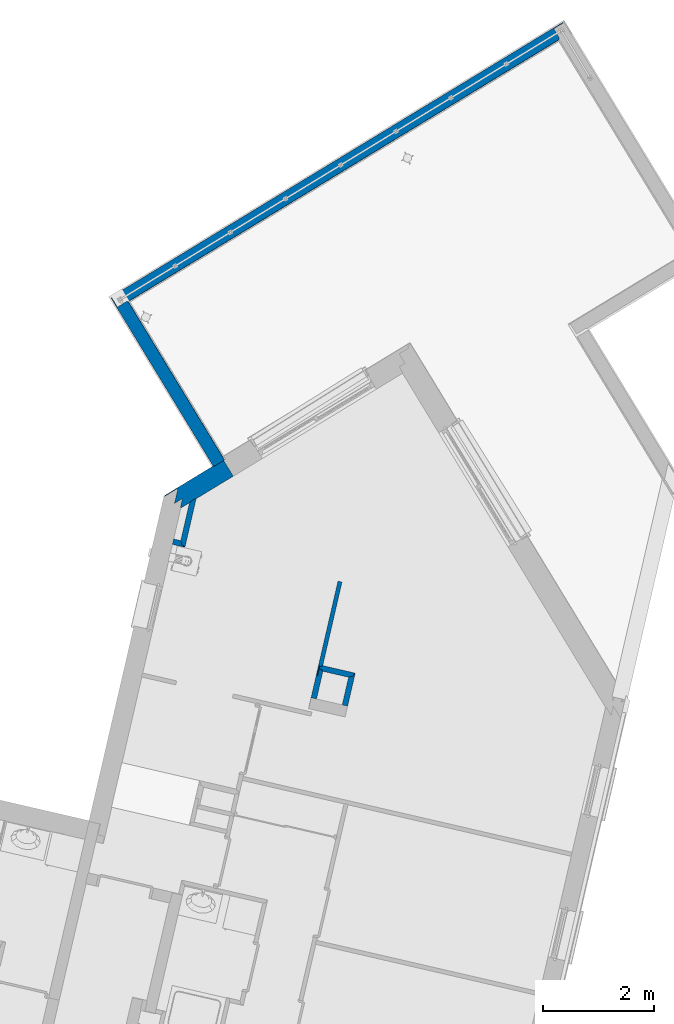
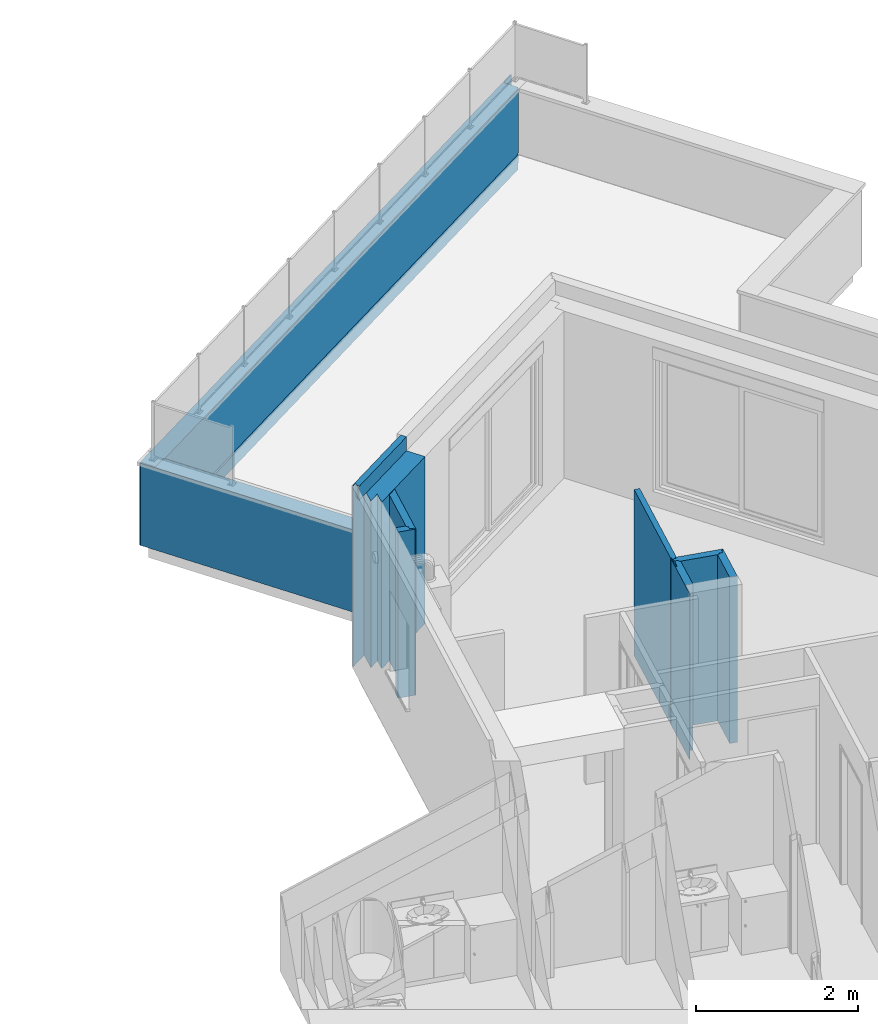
# One storey, part 50 of 91: 9 walls.
"""IFC2X3 building model written with IfcOpenShell, lengths in metres."""

import ifcopenshell
import ifcopenshell.guid

model = None  # the IFC model being written
_history = None  # IfcOwnerHistory: only IFC2X3 demands one
_inside = {}  # id of a spatial element -> (the spatial element, [elements in it])
_under = {}  # id of a project, library or spatial element -> (it, [spatial elements below it])
_declared = {}  # id of a project -> (the project, [libraries it declares])
_typed = {}  # id of a type object -> (the type object, [elements of that type])
_made_of = {}  # id of a material, layer set ... -> (it, [elements and type objects made of it])


def new_model(schema):
    """Start an empty IFC model of exactly this schema.

    Asked for "IFC4X3", IfcOpenShell would pick the latest addendum, in which some entities
    have other attributes; the version numbers below select the first issue.
    IFC2X3 requires an IfcOwnerHistory on every rooted entity: one is made here for all.
    """
    global model, _history
    if schema == "IFC4X3":
        model = ifcopenshell.file(schema_version=(4, 3, 0, 0))
    else:
        model = ifcopenshell.file(schema=schema)
    _inside.clear()
    _under.clear()
    _declared.clear()
    _typed.clear()
    _made_of.clear()
    _history = None
    if model.schema == "IFC2X3":
        org = make("IfcOrganization", Name="unknown")
        user = make(
            "IfcPersonAndOrganization",
            ThePerson=make("IfcPerson", FamilyName="unknown"),
            TheOrganization=org,
        )
        app = make(
            "IfcApplication",
            ApplicationDeveloper=org,
            Version="unknown",
            ApplicationFullName="unknown",
            ApplicationIdentifier="unknown",
        )
        _history = make(
            "IfcOwnerHistory",
            OwningUser=user,
            OwningApplication=app,
            ChangeAction="ADDED",
            CreationDate=0,
        )
    return model


def make(cls, **values):
    """One entity of the class cls with the attributes given. An attribute that is None is left unset."""
    return model.create_entity(
        cls, **{name: value for name, value in values.items() if value is not None}
    )


def entity(cls, *values):
    """Any entity or typed value of the class cls, its attributes in the order of the schema. None: left unset."""
    e = model.create_entity(cls)
    for i, value in enumerate(values):
        if value is not None:
            e[i] = value
    return e


def rooted(cls, **values):
    """An entity with a GlobalId (a new one), such as an element, a storey or a relation."""
    return make(cls, GlobalId=ifcopenshell.guid.new(), OwnerHistory=_history, **values)


def si_unit(unit_type, name, prefix=None):
    """IfcSIUnit, for example si_unit("LENGTHUNIT", "METRE", prefix="MILLI")."""
    return make("IfcSIUnit", UnitType=unit_type, Prefix=prefix, Name=name)


def converted_unit(unit_type, name, factor, base, dimensions=None, offset=None):
    """IfcConversionBasedUnit, such as the inch: factor (a typed value) times the base unit."""
    return make(
        "IfcConversionBasedUnit"
        if offset is None
        else "IfcConversionBasedUnitWithOffset",
        ConversionOffset=offset,
        Dimensions=None
        if dimensions is None
        else entity("IfcDimensionalExponents", *dimensions),
        UnitType=unit_type,
        Name=name,
        ConversionFactor=make(
            "IfcMeasureWithUnit", ValueComponent=factor, UnitComponent=base
        ),
    )


def derived_unit(unit_type, elements):
    """IfcDerivedUnit: a product of units, each with its exponent."""
    return make(
        "IfcDerivedUnit",
        Elements=[
            make("IfcDerivedUnitElement", Unit=unit, Exponent=power)
            for unit, power in elements
        ],
        UnitType=unit_type,
    )


def money_unit(currency):
    """IfcMonetaryUnit."""
    return make("IfcMonetaryUnit", Currency=currency)


def assignment(units):
    """IfcUnitAssignment: the units of a project."""
    return None if units is None else make("IfcUnitAssignment", Units=units)


def point(xyz):
    """IfcCartesianPoint."""
    return None if xyz is None else make("IfcCartesianPoint", Coordinates=xyz)


def direction(xyz):
    """IfcDirection."""
    return None if xyz is None else make("IfcDirection", DirectionRatios=xyz)


def frame(location, z_axis=None, x_axis=None):
    """IfcAxis2Placement3D, a coordinate frame: its origin and axes. An axis left out is left unset."""
    return make(
        "IfcAxis2Placement3D",
        Location=point(location),
        Axis=direction(z_axis),
        RefDirection=direction(x_axis),
    )


def origin_with_axes():
    """The frame at (0, 0, 0) with the z axis (0, 0, 1) and the x axis (1, 0, 0) written out."""
    return frame((0.0, 0.0, 0.0), z_axis=(0.0, 0.0, 1.0), x_axis=(1.0, 0.0, 0.0))


def place(relative_to, where):
    """IfcLocalPlacement: puts the frame where relative to a parent placement (None: the world)."""
    return make(
        "IfcLocalPlacement", PlacementRelTo=relative_to, RelativePlacement=where
    )


def context(
    kind, dimensions, precision=None, world=None, true_north=None, identifier=None
):
    """IfcGeometricRepresentationContext, for example the 3D "Model" context."""
    return make(
        "IfcGeometricRepresentationContext",
        ContextIdentifier=identifier,
        ContextType=kind,
        CoordinateSpaceDimension=dimensions,
        Precision=precision,
        WorldCoordinateSystem=world,
        TrueNorth=true_north,
    )


def subcontext(parent, identifier, kind, view, scale=None):
    """IfcGeometricRepresentationSubContext, for example "Body" below "Model"."""
    return make(
        "IfcGeometricRepresentationSubContext",
        ContextIdentifier=identifier,
        ContextType=kind,
        ParentContext=parent,
        TargetScale=scale,
        TargetView=view,
    )


def project(units=None, contexts=None):
    """IfcProject with its units and contexts."""
    return rooted(
        "IfcProject",
        Name="project",
        RepresentationContexts=contexts,
        UnitsInContext=assignment(units),
    )


def spatial(cls, under=None, at=None, **own):
    """A site, building, storey or space (cls), placed at a placement, below another one or the project."""
    s = rooted(cls, ObjectPlacement=at, **own)
    if under is not None:
        _under.setdefault(under.id(), (under, []))[1].append(s)
    return s


def faces_of(points, faces, orient=None, outer=None):
    """IfcFace entities. A face is a list of loops; a loop is a list of indices into points, from 0.

    orient and outer hold one flag for each loop. By default every Orientation is true, the
    first loop of a face is its IfcFaceOuterBound and the others are IfcFaceBound.
    """
    made = []
    for i, loops in enumerate(faces):
        bounds = []
        for j, loop in enumerate(loops):
            is_outer = j == 0 if outer is None else outer[i][j]
            bounds.append(
                make(
                    "IfcFaceOuterBound" if is_outer else "IfcFaceBound",
                    Bound=make("IfcPolyLoop", Polygon=[points[k] for k in loop]),
                    Orientation=True if orient is None else orient[i][j],
                )
            )
        made.append(make("IfcFace", Bounds=bounds))
    return made


def faceted_brep(points, faces, orient=None, outer=None, voids=None):
    """IfcFacetedBrep: a solid bounded by flat faces; with voids (closed shells), ...WithVoids."""
    shared = [point(p) for p in points]
    hull = make("IfcClosedShell", CfsFaces=faces_of(shared, faces, orient, outer))
    if voids is None:
        return make("IfcFacetedBrep", Outer=hull)
    return make(
        "IfcFacetedBrepWithVoids",
        Outer=hull,
        Voids=[
            make(cls, CfsFaces=faces_of(shared, fs, o, b)) for cls, fs, o, b in voids
        ],
    )


def shape(context_of_items, identifier, shape_type, items):
    """IfcShapeRepresentation: the items that make up one representation, for example the "Body"."""
    return make(
        "IfcShapeRepresentation",
        ContextOfItems=context_of_items,
        RepresentationIdentifier=identifier,
        RepresentationType=shape_type,
        Items=items,
    )


def material(Name=None, Category=None):
    """IfcMaterial."""
    return make("IfcMaterial", Name=Name, Category=Category)


def material_list(materials):
    """IfcMaterialList."""
    return make("IfcMaterialList", Materials=materials)


def made_of(thing, what):
    """Note that an element or type object is made of a material, layer set ...; save() writes the relation."""
    if what is not None:
        _made_of.setdefault(what.id(), (what, []))[1].append(thing)
    return thing


def type_object(cls, material=None, **own):
    """A type object (cls), such as IfcWallType, which elements share."""
    return made_of(rooted(cls, **own), material)


def element(
    cls,
    number,
    at=None,
    inside=None,
    cuts=None,
    type_object=None,
    material=None,
    context=None,
    identifier="Body",
    shape_type=None,
    held_by="IfcProductDefinitionShape",
    body=None,
    shapes=None,
    **own,
):
    """One element of the class cls, such as IfcWall. Its Tag is "e" and its number.

    at: its placement. inside: the storey or other place that contains it. cuts: it is an
    opening in that element (IfcRelVoidsElement). A single representation is given by context,
    identifier, shape_type and body (its items); several are given by shapes. held_by: the class
    of the entity that holds the representations. save() writes the other relations.
    """
    e = rooted(cls, Tag="e%d" % number, ObjectPlacement=at, **own)
    if body is not None:
        shapes = [shape(context, identifier, shape_type, body)]
    if shapes is not None:
        e.Representation = make(held_by, Representations=shapes)
    if inside is not None:
        _inside.setdefault(inside.id(), (inside, []))[1].append(e)
    if cuts is not None:
        rooted(
            "IfcRelVoidsElement", RelatingBuildingElement=cuts, RelatedOpeningElement=e
        )
    if type_object is not None:
        _typed.setdefault(type_object.id(), (type_object, []))[1].append(e)
    return made_of(e, material)


def aggregate(whole, parts):
    """IfcRelAggregates: a whole, such as a stair, and the parts it consists of."""
    return rooted("IfcRelAggregates", RelatingObject=whole, RelatedObjects=parts)


def save(model, path):
    """Write the relations noted so far, then the file.

    IfcRelAggregates (storeys below a building ...), IfcRelContainedInSpatialStructure (elements
    in a storey), IfcRelDefinesByType, IfcRelAssociatesMaterial and IfcRelDeclares: one each for
    every whole, place, type object, material and project.
    """
    for whole, parts in _under.values():
        aggregate(whole, parts)
    for where, things in _inside.values():
        rooted(
            "IfcRelContainedInSpatialStructure",
            RelatedElements=things,
            RelatingStructure=where,
        )
    for kind, things in _typed.values():
        rooted("IfcRelDefinesByType", RelatedObjects=things, RelatingType=kind)
    for what, things in _made_of.values():
        rooted("IfcRelAssociatesMaterial", RelatedObjects=things, RelatingMaterial=what)
    for by, libraries in _declared.values():
        rooted("IfcRelDeclares", RelatingContext=by, RelatedDefinitions=libraries)
    model.write(path)


model = new_model("IFC2X3")

# Units and contexts
model_context = context("Model", 3, precision=1e-05, world=origin_with_axes(), true_north=direction((0.0, 1.0)))
body_context = subcontext(model_context, "Body", "Model", "MODEL_VIEW")
ifc_project = project(units=[si_unit("LENGTHUNIT", "METRE"), si_unit("AREAUNIT", "SQUARE_METRE"), si_unit("VOLUMEUNIT", "CUBIC_METRE"), converted_unit("PLANEANGLEUNIT", "DEGREE", entity("IfcPlaneAngleMeasure", 0.0174532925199), si_unit("PLANEANGLEUNIT", "RADIAN"), dimensions=[0, 0, 0, 0, 0, 0, 0]), si_unit("SOLIDANGLEUNIT", "STERADIAN"), money_unit("EUR"), converted_unit("TIMEUNIT", "Year", entity("IfcTimeMeasure", 31556926.0), si_unit("TIMEUNIT", "SECOND"), dimensions=[0, 0, 1, 0, 0, 0, 0]), si_unit("MASSUNIT", "GRAM", prefix="KILO"), si_unit("THERMODYNAMICTEMPERATUREUNIT", "DEGREE_CELSIUS"), si_unit("LUMINOUSINTENSITYUNIT", "LUMEN"), si_unit("ENERGYUNIT", "JOULE", prefix="MEGA"), derived_unit("THERMALCONDUCTANCEUNIT", [(si_unit("POWERUNIT", "WATT"), 1), (si_unit("LENGTHUNIT", "METRE"), -1), (si_unit("THERMODYNAMICTEMPERATUREUNIT", "KELVIN"), -1)]), derived_unit("SPECIFICHEATCAPACITYUNIT", [(si_unit("ENERGYUNIT", "JOULE"), 1), (si_unit("MASSUNIT", "GRAM", prefix="KILO"), -1), (si_unit("THERMODYNAMICTEMPERATUREUNIT", "KELVIN"), -1)]), derived_unit("MASSDENSITYUNIT", [(si_unit("MASSUNIT", "GRAM", prefix="KILO"), 1), (si_unit("VOLUMEUNIT", "CUBIC_METRE"), -1)])], contexts=[model_context])

# Site, building, storey
site_placement = place(None, origin_with_axes())
site = spatial("IfcSite", under=ifc_project, at=site_placement, Name="Site", CompositionType="ELEMENT")
building_placement = place(site_placement, origin_with_axes())
building = spatial("IfcBuilding", under=site, at=building_placement, Name="Bâtiment", CompositionType="ELEMENT")
storey_placement = place(building_placement, frame((0.0, 0.0, 5.44), z_axis=(0.0, 0.0, 1.0), x_axis=(1.0, 0.0, 0.0)))
storey = spatial("IfcBuildingStorey", under=building, at=storey_placement, Name="R+2", CompositionType="ELEMENT", Elevation=5.44)

# Walls
ifc_material_1 = material(Name="Finition int - Plaque de plâtre")
ifc_material_2 = material(Name="Isolation - Polystyrène extrudé")
ifc_material_3 = material(Name="Bloc ELITHERM")
ifc_material_4 = material(Name="Isolation - Polystyrène expansé")
ifc_material_5 = material(Name="Mortier")
ifc_material_6 = material(Name="Béton cellulaire")
ifc_material_7 = material(Name="Finition ext - Crépis")
ifc_material_list_1 = material_list([ifc_material_1, ifc_material_2, ifc_material_3, ifc_material_4, ifc_material_5, ifc_material_6, ifc_material_7])
wall_type_1 = type_object("IfcWallType", Name="Mur ALKERN + planelle 21 345 x 2720", PredefinedType="USERDEFINED")
wall_1_placement = place(storey_placement, frame((-5.78251282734, 18.2904396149, 0.0), z_axis=(0.0, 0.0, 1.0), x_axis=(-0.854539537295, -0.519386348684, 0.0)))
element("IfcWall", 1, at=wall_1_placement, inside=storey, type_object=wall_type_1, material=ifc_material_list_1, Name="Mue bloc ALKERN isolé", ObjectType="SOLIDWALL", context=body_context, shape_type="Brep", body=[
    faceted_brep([(0.790396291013, 0.335000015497, 0.0), (0.790396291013, 0.335000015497, 2.5), (0.808556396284, 0.335000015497, 2.5), (0.875609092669, 0.335000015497, 2.5), (0.89376919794, 0.335000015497, 2.5), (0.89376919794, 0.335000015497, 0.0), (1.09464507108, 0.335000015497, 0.0), (1.09464507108, 0.335000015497, 2.51), (0.0, 0.335000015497, 2.51), (0.0, 0.335000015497, 0.0), (0.800150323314, 0.34499998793, 2.5), (0.800150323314, 0.34499998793, 0.0), (0.818310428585, 0.34499998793, 2.5), (0.88536312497, 0.34499998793, 2.5), (0.903523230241, 0.34499998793, 2.5), (0.903523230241, 0.34499998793, 0.0), (1.10439910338, 0.34499998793, 0.0), (1.10439910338, 0.34499998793, 2.51), (0.0, 0.34499998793, 2.51), (0.0, 0.34499998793, 0.0)], [[[0, 1, 2, 3, 4, 5, 6, 7, 8, 9]], [[10, 1, 0, 11]], [[12, 2, 1, 10]], [[3, 2, 12, 13]], [[14, 4, 3, 13]], [[15, 5, 4, 14]], [[6, 5, 15, 16]], [[16, 17, 7, 6]], [[8, 7, 17, 18]], [[19, 9, 8, 18]], [[19, 11, 0, 9]], [[12, 10, 11, 19, 18, 17, 16, 15, 14, 13]]]),
    faceted_brep([(0.0, 0.215000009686, 0.0), (0.991565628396, 0.215000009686, 0.0), (0.991565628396, 0.215000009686, 2.51), (0.0, 0.215000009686, 2.51), (0.0, 0.335000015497, 0.0), (1.10861434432, 0.335000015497, 0.0), (1.10861434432, 0.335000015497, 2.51), (0.0, 0.335000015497, 2.51)], [[[0, 1, 2, 3]], [[4, 5, 1, 0]], [[5, 6, 2, 1]], [[3, 2, 6, 7]], [[4, 0, 3, 7]], [[7, 6, 5, 4]]]),
    faceted_brep([(0.964116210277, 0.015, 0.0), (0.964116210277, 0.015, 2.50999999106), (0.0, 0.015, 2.50999999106), (0.0, 0.015, 0.0), (1.0304437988, 0.0829999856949, 2.50999999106), (1.15919738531, 0.214999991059, 0.0), (1.15919738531, 0.214999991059, 2.50999999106), (0.0, 0.0829999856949, 2.50999999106), (0.0, 0.214999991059, 0.0), (0.0, 0.214999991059, 2.50999999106)], [[[0, 1, 2, 3]], [[4, 1, 0, 5, 6]], [[1, 4, 7, 2]], [[8, 3, 2, 7, 9]], [[5, 0, 3, 8]], [[6, 5, 8, 9]], [[4, 6, 9, 7]]]),
    faceted_brep([(0.0, 0.0630000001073, 2.51999999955), (1.19533059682, 0.0630000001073, 2.51999999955), (1.19533059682, 0.0630000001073, 2.72), (0.0, 0.0630000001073, 2.72), (0.0, 0.083000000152, 2.51999999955), (1.21483871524, 0.083000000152, 2.51999999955), (1.21483871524, 0.083000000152, 2.72), (0.0, 0.083000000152, 2.72)], [[[0, 1, 2, 3]], [[4, 5, 1, 0]], [[5, 6, 2, 1]], [[3, 2, 6, 7]], [[7, 4, 0, 3]], [[7, 6, 5, 4]]]),
    faceted_brep([(1.14851111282, 0.015, 2.51), (1.14851111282, 0.015, 2.52), (0.0, 0.015, 2.52), (0.0, 0.015, 2.51), (1.2148387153, 0.083, 2.52), (1.2148387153, 0.083, 2.51), (0.0, 0.083, 2.52), (0.0, 0.083, 2.51)], [[[0, 1, 2, 3]], [[4, 1, 0, 5]], [[1, 4, 6, 2]], [[3, 2, 6, 7]], [[5, 0, 3, 7]], [[4, 5, 7, 6]]]),
    faceted_brep([(1.17644973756, 0.015, 2.51999999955), (1.17644973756, 0.015, 2.72), (0.0, 0.015, 2.72), (0.0, 0.015, 2.51999999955), (1.22326922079, 0.0629999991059, 2.72), (1.22326922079, 0.0629999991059, 2.51999999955), (0.0, 0.0629999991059, 2.72), (0.0, 0.0629999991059, 2.51999999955)], [[[0, 1, 2, 3]], [[4, 1, 0, 5]], [[1, 4, 6, 2]], [[2, 6, 7, 3]], [[5, 0, 3, 7]], [[4, 5, 7, 6]]]),
    faceted_brep([(1.22887136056, 0.0, 2.50999999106), (1.22887136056, 0.0, 2.51999999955), (1.22887136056, 0.0, 2.72), (0.0, 0.0, 2.72), (0.0, 0.0, 1.2550000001), (0.239816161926, 0.0, 1.2550000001), (0.239816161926, 0.0, 1.25299999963), (0.239816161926, 0.0, 1.21302453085), (0.239816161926, 0.0, 1.20874689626), (0.239816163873, 0.0, 1.205), (0.199813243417, 0.0, 1.205), (0.199813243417, 0.0, 0.267041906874), (0.199813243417, 0.0, 0.228976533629), (0.199813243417, 0.0, 0.22), (0.199813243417, 0.0, 0.192882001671), (0.199813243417, 0.0, 0.1), (0.199813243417, 0.0, 0.0), (1.22887136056, 0.0, 0.0), (1.24350243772, 0.0149999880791, 2.50999999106), (1.24350243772, 0.0149999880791, 2.51999999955), (1.24350243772, 0.0149999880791, 2.72), (0.0, 0.0149999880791, 2.72), (0.0, 0.00678359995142, 1.25299999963), (0.0, 0.00678359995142, 1.2550000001), (0.0, 0.0149999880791, 1.24), (0.0, 0.00678359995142, 1.24), (0.239816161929, 0.00678359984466, 1.2550000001), (0.239816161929, 0.00678359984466, 1.25299999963), (0.239816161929, 0.00678359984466, 1.21302453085), (0.239816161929, 0.00678359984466, 1.20874689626), (0.239816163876, 0.00678359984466, 1.205), (0.19981324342, 0.00678359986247, 1.205), (0.19981324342, 0.00678359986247, 1.20874689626), (0.19981324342, 0.00678359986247, 1.21302453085), (0.19981324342, 0.00678359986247, 1.24), (0.199813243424, 0.0149999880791, 1.24), (0.199813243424, 0.0149999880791, 0.267041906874), (0.199813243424, 0.0149999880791, 0.228976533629), (0.199813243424, 0.0149999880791, 0.22), (0.199813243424, 0.0149999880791, 0.192882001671), (0.199813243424, 0.0149999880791, 0.1), (0.199813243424, 0.0149999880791, 0.0), (1.24350243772, 0.0149999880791, 0.0), (0.238008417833, 0.00678359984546, 1.25299999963), (0.238008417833, 0.00678359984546, 1.21302453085), (0.232236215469, 0.00678359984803, 1.21302453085), (0.238008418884, 0.00678359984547, 1.20874689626), (0.234760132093, 0.00678359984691, 1.20874689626), (0.231230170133, 0.00678359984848, 1.21136286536)], [[[0, 1, 2, 3, 4, 5, 6, 7, 8, 9, 10, 11, 12, 13, 14, 15, 16, 17]], [[18, 19, 1, 0]], [[19, 20, 2, 1]], [[3, 2, 20, 21]], [[22, 23, 4, 3, 21, 24, 25]], [[5, 4, 23, 26]], [[26, 27, 6, 5]], [[7, 6, 27, 28]], [[8, 7, 28, 29]], [[9, 8, 29, 30]], [[30, 31, 10, 9]], [[32, 33, 34, 35, 36, 11, 10, 31]], [[12, 11, 36, 37]], [[13, 12, 37, 38]], [[14, 13, 38, 39]], [[15, 14, 39, 40]], [[16, 15, 40, 41]], [[41, 42, 17, 16]], [[42, 18, 0, 17]], [[21, 20, 19, 18, 42, 41, 40, 39, 38, 37, 36, 35, 24]], [[26, 23, 22, 43, 27]], [[35, 34, 25, 24]], [[44, 43, 22, 25, 34, 33, 45]], [[28, 27, 43, 44]], [[29, 28, 44, 46]], [[29, 46, 47, 30]], [[30, 47, 32, 31]], [[48, 45, 33, 32, 47]], [[46, 44, 45]], [[45, 48, 47, 46]]]),
])
ifc_material_8 = material(Name="Isolation - Laine de roche")
ifc_material_list_2 = material_list([ifc_material_1, ifc_material_8, ifc_material_1])
wall_type_2 = type_object("IfcWallType", Name="3 - Cloison 72mm Placostil 74", PredefinedType="USERDEFINED")
wall_2_placement = place(storey_placement, frame((-4.06768031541, 14.6077323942, 0.0), z_axis=(0.0, 0.0, 1.0), x_axis=(0.224876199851, 0.974387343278, 0.0)))
element("IfcWall", 2, at=wall_2_placement, inside=storey, type_object=wall_type_2, material=ifc_material_list_2, Name="Cloison Placostil 72/48", ObjectType="PARTITIONING", context=body_context, shape_type="Brep", body=[
    faceted_brep([(1.54146682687, 0.0, 2.5), (0.0, 0.0, 2.5), (0.0, -0.013, 2.5), (1.54146682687, -0.013, 2.5), (1.54146682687, 0.0, 0.0), (0.0, 0.0, 0.0), (0.0, -0.013, 0.0), (1.54146682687, -0.013, 0.0)], [[[0, 1, 2, 3]], [[4, 5, 1, 0]], [[5, 6, 2, 1]], [[3, 2, 6, 7]], [[7, 4, 0, 3]], [[7, 6, 5, 4]]]),
    faceted_brep([(-0.2, -0.013, 2.5), (-0.2, -0.0260000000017, 2.5), (-0.0259999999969, -0.0260000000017, 2.5), (-0.0259999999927, -0.061, 2.5), (1.54146682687, -0.061, 2.5), (1.54146682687, -0.013, 2.5), (-0.2, -0.013, 0.0), (-0.2, -0.0260000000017, 0.0), (-0.0259999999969, -0.0260000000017, 0.0), (-0.0259999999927, -0.061, 0.0), (1.54146682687, -0.061, 0.0), (1.54146682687, -0.013, 0.0)], [[[0, 1, 2, 3, 4, 5]], [[6, 7, 1, 0]], [[8, 2, 1, 7]], [[8, 9, 3, 2]], [[4, 3, 9, 10]], [[10, 11, 5, 4]], [[11, 6, 0, 5]], [[9, 8, 7, 6, 11, 10]]]),
    faceted_brep([(1.54146682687, -0.061, 2.5), (0.0, -0.061, 2.5), (0.0, -0.0740000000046, 2.5), (1.54146682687, -0.074, 2.5), (1.54146682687, -0.061, 0.0), (0.0, -0.061, 0.0), (0.0, -0.0740000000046, 0.0), (1.54146682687, -0.074, 0.0)], [[[0, 1, 2, 3]], [[4, 5, 1, 0]], [[5, 6, 2, 1]], [[3, 2, 6, 7]], [[7, 4, 0, 3]], [[7, 6, 5, 4]]]),
])
ifc_material_list_3 = material_list([ifc_material_1, ifc_material_1, ifc_material_8, ifc_material_1, ifc_material_1])
wall_type_3 = type_object("IfcWallType", Name="3 - Cloison Gaine Technique 98mm 100", PredefinedType="USERDEFINED")
wall_3_placement = place(storey_placement, frame((-3.41070729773, 14.4561113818, 0.0), z_axis=(0.0, 0.0, 1.0), x_axis=(-0.974387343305, 0.224876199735, 0.0)))
element("IfcWall", 3, at=wall_3_placement, inside=storey, type_object=wall_type_3, material=ifc_material_list_3, Name="Cloison 98 isolée", ObjectType="PARTITIONING", context=body_context, shape_type="Brep", body=[
    faceted_brep([(0.0870000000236, 0.1, 0.0), (0.587242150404, 0.1, 0.0), (0.587242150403, 0.087, 0.0), (0.0870000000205, 0.087, 0.0), (0.0870000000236, 0.1, 2.5), (0.587242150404, 0.1, 2.5), (0.587242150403, 0.087, 2.5), (0.0870000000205, 0.087, 2.5)], [[[0, 1, 2, 3]], [[4, 5, 1, 0]], [[6, 2, 1, 5]], [[3, 2, 6, 7]], [[7, 4, 0, 3]], [[7, 6, 5, 4]]]),
    faceted_brep([(0.0740000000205, 0.087, 0.0), (0.600242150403, 0.087, 0.0), (0.600242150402, 0.074, 0.0), (0.0740000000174, 0.074, 0.0), (0.0740000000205, 0.087, 2.5), (0.600242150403, 0.087, 2.5), (0.600242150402, 0.074, 2.5), (0.0740000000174, 0.074, 2.5)], [[[0, 1, 2, 3]], [[4, 5, 1, 0]], [[6, 2, 1, 5]], [[3, 2, 6, 7]], [[7, 4, 0, 3]], [[7, 6, 5, 4]]]),
    faceted_brep([(0.0260000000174, 0.074, 0.0), (0.648242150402, 0.074, 0.0), (0.6482421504, 0.026, 0.0), (0.0260000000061, 0.026, 0.0), (0.0260000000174, 0.074, 2.5), (0.648242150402, 0.074, 2.5), (0.6482421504, 0.026, 2.5), (0.0260000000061, 0.026, 2.5)], [[[0, 1, 2, 3]], [[4, 5, 1, 0]], [[6, 2, 1, 5]], [[3, 2, 6, 7]], [[7, 4, 0, 3]], [[7, 6, 5, 4]]]),
    faceted_brep([(0.0130000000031, 0.013, 0.0), (0.6132421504, 0.013, 0.0), (0.6132421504, 0.013, 2.5), (0.0130000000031, 0.013, 2.5), (0.0130000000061, 0.026, 0.0), (0.613242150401, 0.026, 0.0), (0.613242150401, 0.026, 2.5), (0.0130000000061, 0.026, 2.5)], [[[0, 1, 2, 3]], [[4, 5, 1, 0]], [[5, 6, 2, 1]], [[3, 2, 6, 7]], [[3, 7, 4, 0]], [[7, 6, 5, 4]]]),
    faceted_brep([(0.674242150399, 0.013, 2.5), (0.6612421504, 0.013, 2.5), (0.661242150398, 0.0, 2.5), (0.674242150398, 0.0, 2.5), (0.674242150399, 0.013, 0.0), (0.6612421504, 0.013, 0.0), (0.661242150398, 0.0, 0.0), (0.674242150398, 0.0, 0.0)], [[[0, 1, 2, 3]], [[4, 5, 1, 0]], [[5, 6, 2, 1]], [[3, 2, 6, 7]], [[3, 7, 4, 0]], [[7, 6, 5, 4]]]),
    faceted_brep([(0.0, 0.0, 0.0), (0.613242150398, 0.0, 0.0), (0.613242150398, 0.0, 2.5), (0.0, 0.0, 2.5), (0.0, 0.013, 0.0), (0.6132421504, 0.013, 0.0), (0.6132421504, 0.013, 2.5), (0.0, 0.013, 2.5)], [[[0, 1, 2, 3]], [[4, 5, 1, 0]], [[5, 6, 2, 1]], [[3, 2, 6, 7]], [[3, 7, 4, 0]], [[7, 6, 5, 4]]]),
])
wall_4_placement = place(storey_placement, frame((-6.16318898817, 18.0590658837, 0.0), z_axis=(0.0, 0.0, 1.0), x_axis=(-0.224876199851, -0.974387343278, 0.0)))
element("IfcWall", 4, at=wall_4_placement, inside=storey, type_object=wall_type_3, material=ifc_material_list_3, Name="Cloison 98 isolée", ObjectType="PARTITIONING", context=body_context, shape_type="Brep", body=[
    faceted_brep([(1.37623881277, 0.0, 0.0), (0.481941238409, 0.0, 0.0), (0.481941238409, 0.0, 2.5), (1.37623881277, 0.0, 2.5), (1.37623881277, -0.013, 0.0), (0.494621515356, -0.013, 0.0), (0.494621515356, -0.013, 2.5), (1.37623881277, -0.013, 2.5)], [[[0, 1, 2, 3]], [[4, 5, 1, 0]], [[5, 6, 2, 1]], [[3, 2, 6, 7]], [[4, 0, 3, 7]], [[7, 6, 5, 4]]]),
    faceted_brep([(1.36323881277, -0.013, 0.0), (0.480652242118, -0.013, 0.0), (0.480652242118, -0.013, 2.5), (1.36323881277, -0.013, 2.5), (1.36323881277, -0.026, 0.0), (0.493332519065, -0.026, 0.0), (0.493332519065, -0.026, 2.5), (1.36323881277, -0.026, 2.5)], [[[0, 1, 2, 3]], [[4, 5, 1, 0]], [[5, 6, 2, 1]], [[3, 2, 6, 7]], [[4, 0, 3, 7]], [[7, 6, 5, 4]]]),
    faceted_brep([(1.35023881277, -0.026, 0.0), (0.493332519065, -0.026, 0.0), (0.493332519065, -0.026, 2.5), (1.35023881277, -0.026, 2.5), (1.35023881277, -0.074, 0.0), (0.540152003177, -0.074, 0.0), (0.540152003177, -0.074, 2.5), (1.35023881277, -0.074, 2.5)], [[[0, 1, 2, 3]], [[4, 5, 1, 0]], [[5, 6, 2, 1]], [[3, 2, 6, 7]], [[4, 0, 3, 7]], [[7, 6, 5, 4]]]),
    faceted_brep([(1.30223881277, -0.074, 0.0), (0.540152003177, -0.074, 0.0), (0.540152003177, -0.074, 2.5), (1.30223881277, -0.074, 2.5), (1.30223881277, -0.087, 0.0), (0.552832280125, -0.087, 0.0), (0.552832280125, -0.087, 2.5), (1.30223881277, -0.087, 2.5)], [[[0, 1, 2, 3]], [[4, 5, 1, 0]], [[5, 6, 2, 1]], [[3, 2, 6, 7]], [[4, 0, 3, 7]], [[7, 6, 5, 4]]]),
    faceted_brep([(1.28923881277, -0.087, 0.0), (0.566801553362, -0.087, 0.0), (0.566801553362, -0.087, 2.5), (1.28923881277, -0.087, 2.5), (1.28923881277, -0.1, 0.0), (0.579481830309, -0.1, 0.0), (0.579481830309, -0.1, 2.5), (1.28923881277, -0.1, 2.5)], [[[0, 1, 2, 3]], [[4, 5, 1, 0]], [[5, 6, 2, 1]], [[3, 2, 6, 7]], [[4, 0, 3, 7]], [[7, 6, 5, 4]]]),
])
wall_5_placement = place(storey_placement, frame((-4.06768031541, 14.6077323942, 0.0), z_axis=(0.0, 0.0, 1.0), x_axis=(-0.224876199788, -0.974387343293, 0.0)))
element("IfcWall", 5, at=wall_5_placement, inside=storey, type_object=wall_type_3, material=ifc_material_list_3, Name="Cloison 98 isolée", ObjectType="PARTITIONING", context=body_context, shape_type="Brep", body=[
    faceted_brep([(0.609999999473, 0.087, 2.5), (0.609999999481, 0.1, 2.5), (0.0999999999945, 0.1, 2.5), (0.0999999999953, 0.087, 2.5), (0.609999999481, 0.1, 0.0), (0.609999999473, 0.087, 0.0), (0.0999999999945, 0.1, 0.0), (0.0999999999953, 0.087, 0.0)], [[[0, 1, 2, 3]], [[4, 1, 0, 5]], [[1, 4, 6, 2]], [[7, 3, 2, 6]], [[5, 0, 3, 7]], [[4, 5, 7, 6]]]),
    faceted_brep([(0.609999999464, 0.074, 2.5), (0.609999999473, 0.087, 2.5), (0.0869999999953, 0.087, 2.5), (0.086999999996, 0.074, 2.5), (0.609999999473, 0.087, 0.0), (0.609999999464, 0.074, 0.0), (0.0869999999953, 0.087, 0.0), (0.086999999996, 0.074, 0.0)], [[[0, 1, 2, 3]], [[4, 1, 0, 5]], [[1, 4, 6, 2]], [[7, 3, 2, 6]], [[5, 0, 3, 7]], [[4, 5, 7, 6]]]),
    faceted_brep([(0.609999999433, 0.026, 2.5), (0.609999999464, 0.074, 2.5), (0.073999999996, 0.074, 2.5), (0.0739999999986, 0.026, 2.5), (0.609999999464, 0.074, 0.0), (0.609999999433, 0.026, 0.0), (0.073999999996, 0.074, 0.0), (0.0739999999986, 0.026, 0.0)], [[[0, 1, 2, 3]], [[4, 1, 0, 5]], [[1, 4, 6, 2]], [[7, 3, 2, 6]], [[5, 0, 3, 7]], [[4, 5, 7, 6]]]),
    faceted_brep([(0.609999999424, 0.0129999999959, 2.5), (0.609999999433, 0.0259999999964, 2.5), (0.200000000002, 0.0259999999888, 2.5), (0.200000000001, 0.0129999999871, 2.5), (0.609999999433, 0.0259999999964, 0.0), (0.609999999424, 0.0129999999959, 0.0), (0.200000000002, 0.0259999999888, 0.0), (0.200000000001, 0.0129999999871, 0.0)], [[[0, 1, 2, 3]], [[4, 1, 0, 5]], [[1, 4, 6, 2]], [[6, 7, 3, 2]], [[5, 0, 3, 7]], [[4, 5, 7, 6]]]),
    faceted_brep([(0.799999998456, 0.00184526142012, 2.5), (0.609999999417, 0.00184526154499, 2.5), (0.609999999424, 0.013, 2.5), (0.0129999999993, 0.013, 2.5), (0.013, 0.0, 2.5), (0.799999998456, 0.0, 2.5), (0.799999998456, 0.00184526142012, 0.0), (0.609999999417, 0.00184526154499, 0.0), (0.609999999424, 0.013, 0.0), (0.0129999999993, 0.013, 0.0), (0.013, 0.0, 0.0), (0.799999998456, 0.0, 0.0)], [[[0, 1, 2, 3, 4, 5]], [[1, 0, 6, 7]], [[8, 2, 1, 7]], [[2, 8, 9, 3]], [[10, 4, 3, 9]], [[5, 4, 10, 11]], [[6, 0, 5, 11]], [[7, 6, 11, 10, 9, 8]]]),
])
wall_6_placement = place(storey_placement, frame((-6.45018472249, 16.8155149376, 0.0), z_axis=(0.0, 0.0, 1.0), x_axis=(-0.974387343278, 0.224876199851, 0.0)))
element("IfcWall", 6, at=wall_6_placement, inside=storey, type_object=wall_type_3, material=ifc_material_list_3, Name="Cloison 98 isolée", ObjectType="PARTITIONING", context=body_context, shape_type="Brep", body=[
    faceted_brep([(0.013, 0.1, 0.0), (0.230797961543, 0.1, 0.0), (0.230797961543, 0.087, 0.0), (0.013, 0.087, 0.0), (0.013, 0.1, 2.5), (0.230797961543, 0.1, 2.5), (0.230797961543, 0.087, 2.5), (0.013, 0.087, 2.5)], [[[0, 1, 2, 3]], [[4, 5, 1, 0]], [[2, 1, 5, 6]], [[3, 2, 6, 7]], [[4, 0, 3, 7]], [[7, 6, 5, 4]]]),
    faceted_brep([(0.026, 0.087, 0.0), (0.230797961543, 0.087, 0.0), (0.230797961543, 0.074, 0.0), (0.026, 0.074, 0.0), (0.026, 0.087, 2.5), (0.230797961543, 0.087, 2.5), (0.230797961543, 0.074, 2.5), (0.026, 0.074, 2.5)], [[[0, 1, 2, 3]], [[4, 5, 1, 0]], [[2, 1, 5, 6]], [[3, 2, 6, 7]], [[4, 0, 3, 7]], [[7, 6, 5, 4]]]),
    faceted_brep([(0.074, 0.074, 0.0), (0.230797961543, 0.074, 0.0), (0.230797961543, 0.026, 0.0), (0.074, 0.026, 0.0), (0.074, 0.074, 2.5), (0.230797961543, 0.074, 2.5), (0.230797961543, 0.026, 2.5), (0.074, 0.026, 2.5)], [[[0, 1, 2, 3]], [[4, 5, 1, 0]], [[2, 1, 5, 6]], [[3, 2, 6, 7]], [[4, 0, 3, 7]], [[7, 6, 5, 4]]]),
    faceted_brep([(0.087, 0.026, 0.0), (0.230797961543, 0.026, 0.0), (0.230797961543, 0.013, 0.0), (0.087, 0.013, 0.0), (0.087, 0.026, 2.5), (0.230797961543, 0.026, 2.5), (0.230797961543, 0.013, 2.5), (0.087, 0.013, 2.5)], [[[0, 1, 2, 3]], [[4, 5, 1, 0]], [[2, 1, 5, 6]], [[3, 2, 6, 7]], [[4, 0, 3, 7]], [[7, 6, 5, 4]]]),
    faceted_brep([(0.1, 0.013, 0.0), (0.230797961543, 0.013, 0.0), (0.230797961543, 0.0, 0.0), (0.1, 0.0, 0.0), (0.1, 0.013, 2.5), (0.230797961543, 0.013, 2.5), (0.230797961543, 0.0, 2.5), (0.1, 0.0, 2.5)], [[[0, 1, 2, 3]], [[4, 5, 1, 0]], [[2, 1, 5, 6]], [[3, 2, 6, 7]], [[4, 0, 3, 7]], [[7, 6, 5, 4]]]),
])
wall_7_placement = place(storey_placement, frame((-3.41070729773, 14.4561113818, 0.0), z_axis=(0.0, 0.0, 1.0), x_axis=(-0.224876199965, -0.974387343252, 0.0)))
element("IfcWall", 7, at=wall_7_placement, inside=storey, type_object=wall_type_3, material=ifc_material_list_3, Name="Cloison 98 isolée", ObjectType="PARTITIONING", context=body_context, shape_type="Brep", body=[
    faceted_brep([(0.609999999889, -0.013, 2.5), (0.609999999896, 2.09169570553e-10, 2.5), (0.013, 0.0, 2.5), (0.0130000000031, -0.013, 2.5), (0.609999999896, 2.09169570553e-10, 0.0), (0.609999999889, -0.013, 0.0), (0.013, 0.0, 0.0), (0.0130000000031, -0.013, 0.0)], [[[0, 1, 2, 3]], [[4, 1, 0, 5]], [[1, 4, 6, 2]], [[6, 7, 3, 2]], [[5, 0, 3, 7]], [[4, 5, 7, 6]]]),
    faceted_brep([(0.609999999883, -0.026, 2.5), (0.609999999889, -0.013, 2.5), (0.0260000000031, -0.013, 2.5), (0.0260000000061, -0.026, 2.5), (0.609999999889, -0.013, 0.0), (0.609999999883, -0.026, 0.0), (0.0260000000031, -0.013, 0.0), (0.0260000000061, -0.026, 0.0)], [[[0, 1, 2, 3]], [[4, 1, 0, 5]], [[1, 4, 6, 2]], [[6, 7, 3, 2]], [[5, 0, 3, 7]], [[4, 5, 7, 6]]]),
    faceted_brep([(0.60999999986, -0.074, 2.5), (0.609999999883, -0.026, 2.5), (0.0740000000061, -0.026, 2.5), (0.0740000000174, -0.074, 2.5), (0.609999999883, -0.026, 0.0), (0.60999999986, -0.074, 0.0), (0.0740000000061, -0.026, 0.0), (0.0740000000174, -0.074, 0.0)], [[[0, 1, 2, 3]], [[4, 1, 0, 5]], [[1, 4, 6, 2]], [[6, 7, 3, 2]], [[5, 0, 3, 7]], [[4, 5, 7, 6]]]),
    faceted_brep([(0.609999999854, -0.087, 2.5), (0.60999999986, -0.074, 2.5), (0.0870000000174, -0.074, 2.5), (0.0870000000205, -0.087, 2.5), (0.60999999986, -0.074, 0.0), (0.609999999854, -0.087, 0.0), (0.0870000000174, -0.074, 0.0), (0.0870000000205, -0.087, 0.0)], [[[0, 1, 2, 3]], [[4, 1, 0, 5]], [[1, 4, 6, 2]], [[6, 7, 3, 2]], [[5, 0, 3, 7]], [[4, 5, 7, 6]]]),
    faceted_brep([(0.609999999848, -0.1, 2.5), (0.609999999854, -0.087, 2.5), (0.10000000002, -0.087, 2.5), (0.100000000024, -0.1, 2.5), (0.609999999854, -0.087, 0.0), (0.609999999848, -0.1, 0.0), (0.10000000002, -0.087, 0.0), (0.100000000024, -0.1, 0.0)], [[[0, 1, 2, 3]], [[4, 1, 0, 5]], [[1, 4, 6, 2]], [[6, 7, 3, 2]], [[5, 0, 3, 7]], [[4, 5, 7, 6]]]),
])
ifc_material_9 = material(Name="Métal - Aluminium")
ifc_material_10 = material(Name="Etanchéité - Bitume")
ifc_material_11 = material(Name="Béton")
ifc_material_list_4 = material_list([ifc_material_9, ifc_material_7, ifc_material_10, ifc_material_11, ifc_material_7])
wall_type_4 = type_object("IfcWallType", Name="Acrotère pour plancher 21 isolée TERRASSE ACCESSIBLE 235 x 1240", PredefinedType="USERDEFINED")
wall_8_placement = place(storey_placement, frame((-7.8099007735, 21.2124839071, 0.0), z_axis=(0.0, 0.0, 1.0), x_axis=(0.519386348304, -0.854539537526, 0.0)))
element("IfcWall", 8, at=wall_8_placement, inside=storey, type_object=wall_type_4, material=ifc_material_list_4, Name="Muret béton 20cm", ObjectType="PARAPET", context=body_context, shape_type="Brep", body=[
    faceted_brep([(0.218640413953, 0.215, 0.228976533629), (0.218640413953, 0.218640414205, 0.228976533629), (0.235484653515, 0.235484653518, 0.222179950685), (0.235484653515, 0.231614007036, 0.222179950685), (0.216045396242, 0.216045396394, 0.230023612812), (0.216045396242, 0.215, 0.230023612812), (3.56518675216, 0.216045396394, 0.230023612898), (3.56518675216, 0.235484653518, 0.222179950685), (0.235484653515, 0.235484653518, 0.22), (0.235484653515, 0.234250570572, 0.22), (0.235484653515, 0.234250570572, 0.221101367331), (3.56518675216, 0.234250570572, 0.221101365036), (3.56518675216, 0.215, 0.228976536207), (3.56518675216, 0.215, 0.267041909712), (0.216045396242, 0.215, 0.267041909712), (0.216045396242, 0.216045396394, 0.267041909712), (3.56518675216, 0.216045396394, 0.267041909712), (3.56518675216, 0.234250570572, 0.192882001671), (3.56518675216, 0.235484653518, 0.192882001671), (0.235484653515, 0.235484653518, 0.192882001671), (0.235484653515, 0.234250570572, 0.192882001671)], [[[0, 1, 2, 3]], [[4, 1, 0, 5]], [[1, 4, 6, 7, 2]], [[2, 8, 9, 10, 3]], [[3, 10, 11, 12, 0]], [[5, 0, 12, 13, 14]], [[14, 15, 4, 5]], [[4, 15, 16, 6]], [[11, 17, 18, 7, 6, 16, 13, 12]], [[8, 2, 7, 18, 19]], [[9, 8, 19, 20]], [[10, 9, 20, 17, 11]], [[15, 14, 13, 16]], [[20, 19, 18, 17]]]),
    faceted_brep([(0.229999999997, 0.23, 0.267041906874), (0.229999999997, 0.23, 1.24), (3.56518675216, 0.23, 1.24), (3.56518675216, 0.23, 0.267041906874), (0.229999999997, 0.215, 1.24), (0.229999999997, 0.216045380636, 0.267041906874), (0.229999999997, 0.215, 0.267041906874), (3.56518675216, 0.215, 1.24), (3.56518675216, 0.215, 0.267041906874), (3.56518675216, 0.216045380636, 0.267041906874)], [[[0, 1, 2, 3]], [[4, 1, 0, 5, 6]], [[1, 4, 7, 2]], [[8, 9, 3, 2, 7]], [[5, 0, 3, 9]], [[6, 5, 9, 8]], [[4, 6, 8, 7]]]),
    faceted_brep([(3.56499899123, 0.225, 0.11), (0.224999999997, 0.225, 0.11), (0.224999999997, 0.225, 0.22), (3.56518675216, 0.225, 0.22), (3.56518675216, 0.225, 0.1), (3.56499899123, 0.225, 0.1), (3.56499999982, 0.215, 0.11), (0.224999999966, 0.21499943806, 0.11), (0.224999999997, 0.215, 0.22), (3.56518675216, 0.215, 0.22), (3.56518675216, 0.215, 0.1), (3.56499999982, 0.215, 0.1)], [[[0, 1, 2, 3, 4, 5]], [[1, 0, 6, 7]], [[1, 7, 8, 2]], [[3, 2, 8, 9]], [[9, 10, 4, 3]], [[11, 5, 4, 10]], [[0, 5, 11, 6]], [[6, 11, 10, 9, 8, 7]]]),
    faceted_brep([(3.56499999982, 0.215, 0.0), (3.56499999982, 0.215, 0.1), (3.56518675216, 0.215, 0.1), (3.56518675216, 0.215, 0.0), (3.56500001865, 0.214813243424, 0.0), (3.56500001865, 0.214813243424, 0.1), (0.214999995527, 0.21499999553, 0.1), (0.214999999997, 0.215, 0.22), (3.56518675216, 0.215, 0.22), (3.56518675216, 0.215, 1.24), (3.56518675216, 0.214813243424, 1.24), (3.56518675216, 0.214813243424, 0.0), (3.56518675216, 0.215, 0.228976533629), (0.214999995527, 0.21499999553, 0.0), (0.215, 0.015, 0.1), (0.215, 0.015, 1.24), (0.214999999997, 0.215, 1.24), (0.214999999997, 0.215, 0.228976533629), (3.56500000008, 0.015, 1.24), (3.56499999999, 0.214813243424, 1.24), (3.56500000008, 0.015, 0.0), (0.215, 0.015, 0.0)], [[[0, 1, 2, 3]], [[1, 0, 4, 5]], [[1, 6, 7, 8, 2]], [[9, 10, 11, 3, 2, 8, 12]], [[4, 0, 3, 11]], [[4, 13, 6, 5]], [[6, 1, 5]], [[14, 15, 16, 17, 7, 6]], [[8, 7, 17, 12]], [[15, 18, 19, 10, 9, 16]], [[11, 10, 19, 4]], [[17, 16, 9, 12]], [[13, 4, 20, 21]], [[6, 13, 21, 14]], [[18, 15, 14, 21, 20]], [[4, 19, 18, 20]]]),
    faceted_brep([(0.015, 0.0, 1.24), (3.55000000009, 0.0, 1.24), (3.55000000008, 0.015, 1.24), (0.0149999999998, 0.015, 1.24), (0.015, 0.0, 0.0), (3.55000000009, 0.0, 0.0), (3.55000000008, 0.015, 0.0), (0.0149999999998, 0.015, 0.0)], [[[0, 1, 2, 3]], [[1, 0, 4, 5]], [[6, 2, 1, 5]], [[3, 2, 6, 7]], [[4, 0, 3, 7]], [[7, 6, 5, 4]]]),
])
ifc_material_list_5 = material_list([ifc_material_7, ifc_material_11, ifc_material_10, ifc_material_7, ifc_material_9])
wall_9_placement = place(storey_placement, frame((-7.8099007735, 21.2124839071, 0.0), z_axis=(0.0, 0.0, 1.0), x_axis=(0.85453953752, 0.519386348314, 0.0)))
element("IfcWall", 9, at=wall_9_placement, inside=storey, type_object=wall_type_4, material=ifc_material_list_5, Name="Muret béton 20cm", ObjectType="PARAPET", context=body_context, shape_type="Brep", body=[
    faceted_brep([(9.51500000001, -0.015, 1.24), (0.0, -0.015, 1.24), (0.0, -0.015, 0.0), (9.51500000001, -0.015, 0.0), (9.51500000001, 0.0, 1.24), (0.0, 0.0, 1.24), (0.0, 0.0, 0.0), (9.51500000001, 0.0, 0.0)], [[[0, 1, 2, 3]], [[1, 0, 4, 5]], [[5, 6, 2, 1]], [[6, 7, 3, 2]], [[7, 4, 0, 3]], [[5, 4, 7, 6]]]),
    faceted_brep([(9.31500000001, -0.015, 1.24), (0.0149999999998, -0.015, 1.24), (0.0149999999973, -0.215, 1.24), (9.315, -0.215, 1.24), (9.31500000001, -0.015, 0.1), (9.31500000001, -0.015, 0.0), (0.0149999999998, -0.015, 0.0), (0.0149999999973, -0.215, 0.0), (0.0149999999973, -0.215, 0.1), (0.0149999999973, -0.215, 0.22), (0.0149999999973, -0.215, 0.228976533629), (9.315, -0.215, 0.228976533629), (9.315, -0.215, 0.22), (9.315, -0.215, 0.1), (9.315, -0.215, 0.0)], [[[0, 1, 2, 3]], [[1, 0, 4, 5, 6]], [[7, 8, 9, 10, 2, 1, 6]], [[3, 2, 10, 11]], [[4, 0, 3, 11, 12, 13]], [[5, 4, 13, 14]], [[14, 7, 6, 5]], [[13, 8, 7, 14]], [[12, 9, 8, 13]], [[11, 10, 9, 12]]]),
    faceted_brep([(0.214999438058, -0.225, 0.110000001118), (9.305, -0.225, 0.110000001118), (9.305, -0.225, 0.22), (0.214999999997, -0.225, 0.22), (9.305, -0.21499999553, 0.11), (0.214999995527, -0.21499999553, 0.11), (9.305, -0.215, 0.22), (0.214999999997, -0.215, 0.22)], [[[0, 1, 2, 3]], [[4, 1, 0, 5]], [[1, 4, 6, 2]], [[3, 2, 6, 7]], [[5, 0, 3, 7]], [[4, 5, 7, 6]]]),
    faceted_brep([(0.214999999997, -0.215, 1.24), (0.214999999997, -0.23, 1.24), (9.3, -0.23, 1.24), (9.3, -0.215, 1.24), (0.214999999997, -0.23, 0.267041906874), (0.214999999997, -0.215, 0.267041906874), (0.214999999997, -0.216045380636, 0.267041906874), (9.3, -0.23, 0.267041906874), (9.3, -0.216045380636, 0.267041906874), (9.3, -0.215, 0.267041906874)], [[[0, 1, 2, 3]], [[4, 1, 0, 5, 6]], [[1, 4, 7, 2]], [[3, 2, 7, 8, 9]], [[5, 0, 3, 9]], [[6, 5, 9, 8]], [[4, 6, 8, 7]]]),
    faceted_brep([(0.214999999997, -0.216045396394, 0.230023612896), (0.214999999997, -0.218640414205, 0.228976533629), (0.231614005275, -0.235484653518, 0.222179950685), (9.29451534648, -0.235484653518, 0.222179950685), (9.31135958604, -0.218640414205, 0.228976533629), (9.31395460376, -0.216045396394, 0.230023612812), (0.214999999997, -0.215, 0.228976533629), (0.214999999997, -0.216045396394, 0.267041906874), (0.214999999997, -0.215, 0.267041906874), (0.234250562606, -0.234250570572, 0.221101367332), (0.234250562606, -0.235484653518, 0.221101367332), (0.234250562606, -0.235484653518, 0.22), (0.234250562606, -0.235484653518, 0.192882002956), (9.29451534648, -0.235484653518, 0.192882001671), (9.29451534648, -0.235484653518, 0.22), (9.31135958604, -0.215, 0.228976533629), (9.29451534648, -0.231614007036, 0.222179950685), (9.31395460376, -0.215, 0.230023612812), (9.31395460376, -0.216045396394, 0.267041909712), (9.31395460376, -0.215, 0.267041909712), (9.29451534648, -0.234250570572, 0.221101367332), (0.234250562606, -0.234250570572, 0.22), (0.234250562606, -0.234250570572, 0.192882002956), (9.29451534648, -0.234250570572, 0.192882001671), (9.29451534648, -0.234250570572, 0.22)], [[[0, 1, 2, 3, 4, 5]], [[6, 1, 0, 7, 8]], [[1, 6, 9, 10, 2]], [[10, 11, 12, 13, 14, 3, 2]], [[15, 4, 3, 16]], [[5, 4, 15, 17]], [[7, 0, 5, 18]], [[8, 7, 18, 19]], [[6, 8, 19, 17, 15]], [[9, 6, 15, 16, 20]], [[11, 10, 9, 21]], [[11, 21, 22, 12]], [[12, 22, 23, 13]], [[24, 14, 13, 23]], [[3, 14, 24, 20, 16]], [[19, 18, 5, 17]], [[21, 9, 20, 24, 23, 22]]]),
])

save(model, "model.ifc")
